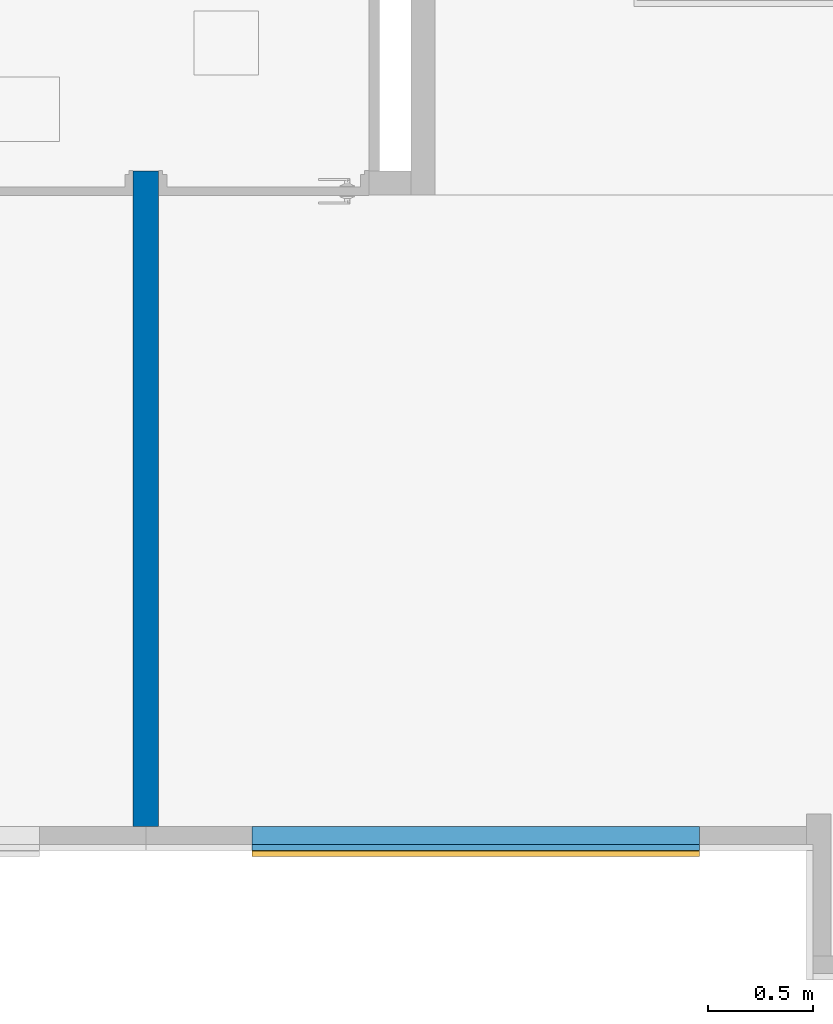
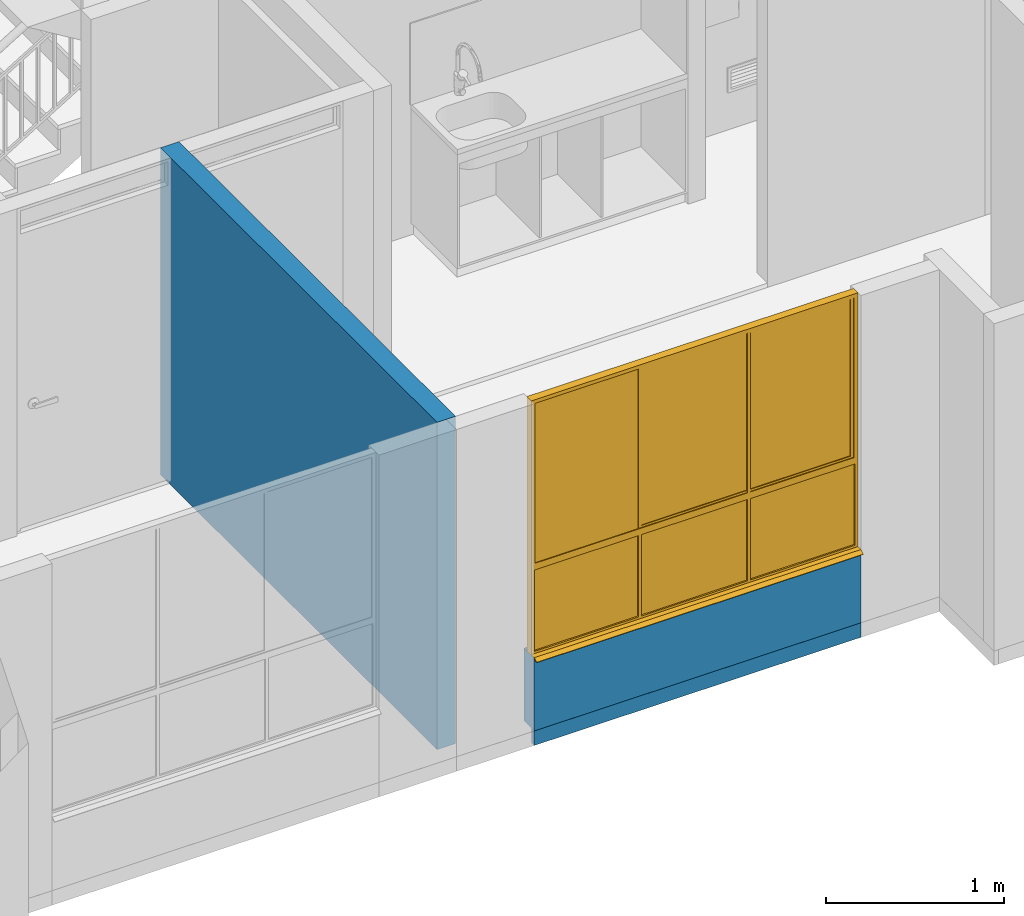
# One storey, part 9 of 48: 3 walls, 1 window, 1 opening.
"""IFC4 building model written with IfcOpenShell, lengths in metres."""

from ifc_helpers import new_model, entity, si_unit, converted_unit, derived_unit, direction, frame, origin, place, context, subcontext, project, spatial, indexed_curve, outline, extrude, polygons, source, transform, mapped, material, constituent, constituent_set, type_object, type_shapes, element, fill, save


model = new_model("IFC4")

# Units and contexts
model_context = context("Model", 3, precision=1e-05, world=origin(), true_north=direction((6.123031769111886e-17, 1.0)))
body_context = subcontext(model_context, "Body", "Model", "MODEL_VIEW")
ifc_project = project(units=[si_unit("LENGTHUNIT", "METRE"), si_unit("AREAUNIT", "SQUARE_METRE"), si_unit("VOLUMEUNIT", "CUBIC_METRE"), converted_unit("PLANEANGLEUNIT", "DEGREE", entity("IfcRatioMeasure", 0.017453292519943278), si_unit("PLANEANGLEUNIT", "RADIAN"), dimensions=[0, 0, 0, 0, 0, 0, 0]), si_unit("MASSUNIT", "GRAM", prefix="KILO"), derived_unit("MASSDENSITYUNIT", [(si_unit("MASSUNIT", "GRAM", prefix="KILO"), 1), (si_unit("LENGTHUNIT", "METRE"), -3)]), derived_unit("IONCONCENTRATIONUNIT", [(si_unit("MASSUNIT", "GRAM", prefix="KILO"), 1), (si_unit("LENGTHUNIT", "METRE"), -3)]), derived_unit("MOMENTOFINERTIAUNIT", [(si_unit("LENGTHUNIT", "METRE"), 4)]), si_unit("TIMEUNIT", "SECOND"), si_unit("FREQUENCYUNIT", "HERTZ"), si_unit("THERMODYNAMICTEMPERATUREUNIT", "DEGREE_CELSIUS"), derived_unit("THERMALTRANSMITTANCEUNIT", [(si_unit("MASSUNIT", "GRAM", prefix="KILO"), 1), (si_unit("THERMODYNAMICTEMPERATUREUNIT", "KELVIN"), -1), (si_unit("TIMEUNIT", "SECOND"), -3)]), derived_unit("THERMALCONDUCTANCEUNIT", [(si_unit("MASSUNIT", "GRAM", prefix="KILO"), 1), (si_unit("THERMODYNAMICTEMPERATUREUNIT", "KELVIN"), -1), (si_unit("TIMEUNIT", "SECOND"), -3), (si_unit("LENGTHUNIT", "METRE"), 1)]), derived_unit("VOLUMETRICFLOWRATEUNIT", [(si_unit("LENGTHUNIT", "METRE"), 3), (si_unit("TIMEUNIT", "SECOND"), -1)]), derived_unit("MASSFLOWRATEUNIT", [(si_unit("MASSUNIT", "GRAM", prefix="KILO"), 1), (si_unit("TIMEUNIT", "SECOND"), -1)]), derived_unit("ROTATIONALFREQUENCYUNIT", [(si_unit("TIMEUNIT", "SECOND"), -1)]), si_unit("ELECTRICCURRENTUNIT", "AMPERE"), si_unit("ELECTRICVOLTAGEUNIT", "VOLT"), si_unit("POWERUNIT", "WATT"), si_unit("FORCEUNIT", "NEWTON", prefix="KILO"), si_unit("ILLUMINANCEUNIT", "LUX"), si_unit("LUMINOUSFLUXUNIT", "LUMEN"), si_unit("LUMINOUSINTENSITYUNIT", "CANDELA"), derived_unit("USERDEFINED", [(si_unit("MASSUNIT", "GRAM", prefix="KILO"), -1), (si_unit("LENGTHUNIT", "METRE"), -2), (si_unit("TIMEUNIT", "SECOND"), 3), (si_unit("LUMINOUSFLUXUNIT", "LUMEN"), 1)]), derived_unit("USERDEFINED", [(si_unit("MASSUNIT", "GRAM", prefix="KILO"), 1), (si_unit("TIMEUNIT", "SECOND"), -3), (si_unit("LENGTHUNIT", "METRE"), 3), (si_unit("ELECTRICCURRENTUNIT", "AMPERE"), -2)]), derived_unit("SOUNDPOWERUNIT", [(si_unit("MASSUNIT", "GRAM", prefix="KILO"), 1), (si_unit("TIMEUNIT", "SECOND"), -3), (si_unit("LENGTHUNIT", "METRE"), 2)]), derived_unit("SOUNDPRESSUREUNIT", [(si_unit("MASSUNIT", "GRAM", prefix="KILO"), 1), (si_unit("LENGTHUNIT", "METRE"), -1), (si_unit("TIMEUNIT", "SECOND"), -2)]), derived_unit("LINEARVELOCITYUNIT", [(si_unit("LENGTHUNIT", "METRE"), 1), (si_unit("TIMEUNIT", "SECOND"), -1)]), si_unit("PRESSUREUNIT", "PASCAL"), derived_unit("USERDEFINED", [(si_unit("MASSUNIT", "GRAM", prefix="KILO"), 1), (si_unit("LENGTHUNIT", "METRE"), -2), (si_unit("TIMEUNIT", "SECOND"), -2)]), derived_unit("LINEARFORCEUNIT", [(si_unit("MASSUNIT", "GRAM", prefix="KILO"), 1), (si_unit("TIMEUNIT", "SECOND"), -2)]), derived_unit("PLANARFORCEUNIT", [(si_unit("MASSUNIT", "GRAM", prefix="KILO"), 1), (si_unit("LENGTHUNIT", "METRE"), -1), (si_unit("TIMEUNIT", "SECOND"), -2)]), derived_unit("SPECIFICHEATCAPACITYUNIT", [(si_unit("THERMODYNAMICTEMPERATUREUNIT", "KELVIN"), -1), (si_unit("LENGTHUNIT", "METRE"), 2), (si_unit("TIMEUNIT", "SECOND"), -2)]), derived_unit("HEATINGVALUEUNIT", [(si_unit("LENGTHUNIT", "METRE"), 2), (si_unit("TIMEUNIT", "SECOND"), -2)]), derived_unit("VAPORPERMEABILITYUNIT", [(si_unit("LENGTHUNIT", "METRE"), -1), (si_unit("TIMEUNIT", "SECOND"), 1)]), derived_unit("DYNAMICVISCOSITYUNIT", [(si_unit("MASSUNIT", "GRAM", prefix="KILO"), 1), (si_unit("TIMEUNIT", "SECOND"), -1), (si_unit("LENGTHUNIT", "METRE"), -1)]), derived_unit("THERMALEXPANSIONCOEFFICIENTUNIT", [(si_unit("THERMODYNAMICTEMPERATUREUNIT", "KELVIN"), -1)]), derived_unit("MODULUSOFELASTICITYUNIT", [(si_unit("MASSUNIT", "GRAM", prefix="KILO"), 1), (si_unit("LENGTHUNIT", "METRE"), -1), (si_unit("TIMEUNIT", "SECOND"), -2)]), derived_unit("ISOTHERMALMOISTURECAPACITYUNIT", [(si_unit("LENGTHUNIT", "METRE"), 3), (si_unit("MASSUNIT", "GRAM", prefix="KILO"), -1)]), derived_unit("MOISTUREDIFFUSIVITYUNIT", [(si_unit("TIMEUNIT", "SECOND"), -1), (si_unit("LENGTHUNIT", "METRE"), 2)])], contexts=[model_context])

# Site, building, storey
site_placement = place(None, origin())
site = spatial("IfcSite", under=ifc_project, at=site_placement, Name="Default", CompositionType="ELEMENT")
building_placement = place(site_placement, origin())
building = spatial("IfcBuilding", under=site, at=building_placement, CompositionType="ELEMENT")
storey_placement = place(building_placement, frame((0.0, 0.0, 4.700000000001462)))
storey = spatial("IfcBuildingStorey", under=building, at=storey_placement, Name="Nivel 3", CompositionType="ELEMENT", Elevation=4.700000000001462)

# Wall
ifc_material_1 = material(Name="Concreto (Aire)", Category="Materials")
wall_type_1 = type_object("IfcWallType", Name="Basic Wall:B2010 - 0.12m - Muro interior en concreto", PredefinedType="STANDARD")
wall_1_placement = place(storey_placement, frame((9.322500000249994, -9.024999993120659, 0.0), z_axis=(0.0, 0.0, 1.0), x_axis=(0.0, -1.0, 0.0)))
element("IfcWall", 1, at=wall_1_placement, inside=storey, type_object=wall_type_1, material=ifc_material_1, Name="Basic Wall:B2010 - 0.12m - Muro interior en concreto", ObjectType="Basic Wall:B2010 - 0.12m - Muro interior en concreto", PredefinedType="NOTDEFINED", context=body_context, shape_type="SweptSolid", body=[
    extrude(outline(indexed_curve([(3.1150000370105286, 0.06000000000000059), (-1.0719303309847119e-16, 0.060000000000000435), (1.0719303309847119e-16, -0.060000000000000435), (3.1150000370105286, -0.06000000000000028), (3.1150000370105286, 0.06000000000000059)], self_intersect=False)), origin(), (0.0, 0.0, 1.0), 2.250000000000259),
])

# Wall, opening, window
ifc_material_2 = material(Name="Ladrillo claro (Aire)", Category="Materials")
wall_type_2 = type_object("IfcWallType", Name="Basic Wall:B2010 - 0.115m - Muro exterior en mampostería - Ladrillo", PredefinedType="STANDARD")
wall_2_placement = place(storey_placement, frame((11.952500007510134, -12.197500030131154, 0.0), z_axis=(0.0, 0.0, 1.0), x_axis=(-1.0, 0.0, 0.0)))
wall_2 = element("IfcWall", 2, at=wall_2_placement, inside=storey, type_object=wall_type_2, material=ifc_material_2, Name="Basic Wall:B2010 - 0.115m - Muro exterior en mampostería - Ladrillo", ObjectType="Basic Wall:B2010 - 0.115m - Muro exterior en mampostería - Ladrillo", PredefinedType="NOTDEFINED", context=body_context, shape_type="Tessellation", body=[
    polygons([(1.6266871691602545e-15, -0.057499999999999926, -5.414335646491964e-16), (2.1249999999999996, -0.057499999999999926, -5.414335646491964e-16), (2.1249999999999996, -0.057499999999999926, 0.5000000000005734), (1.6266871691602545e-15, -0.057499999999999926, 0.5000000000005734), (2.1249999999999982, 0.057499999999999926, -5.414335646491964e-16), (6.252360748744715e-16, 0.057499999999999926, -5.414335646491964e-16), (6.252360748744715e-16, 0.057499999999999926, 0.5000000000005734), (2.1249999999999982, 0.057499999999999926, 0.5000000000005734)], [[[1, 2, 3, 4]], [[5, 6, 7, 8]], [[2, 1, 6, 5]], [[2, 5, 8, 3]], [[6, 1, 4, 7]], [[4, 3, 8, 7]]], closed=True),
])
opening_placement = place(wall_2_placement, frame((0.0, -0.057499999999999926, 0.4999999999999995)))
opening = element("IfcOpeningElement", 3, at=opening_placement, cuts=wall_2, Name="B2020 - 6c Ventana corrediza - Aluminio + Vidrio:B2020 -2.13m x 1.750m - Ventana corrediza 2C - Aluminio + Vidrio:1", PredefinedType="OPENING", context=body_context, shape_type="SweptSolid", body=[
    extrude(outline(indexed_curve([(0.0, 2.125), (0.0, 0.0), (1.7499999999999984, 0.0), (1.7499999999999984, 2.125), (0.0, 2.125)], self_intersect=False)), frame((0.0, 0.0, 0.0), z_axis=(0.0, 1.0, 0.0), x_axis=(0.0, 0.0, 1.0)), (0.0, 0.0, 1.0), 0.115),
])
ifc_material_3 = material(Name="Aluminio", Category="Materials")
ifc_constituent_1 = constituent(ifc_material_3, Name="Aluminio", Category="Materials")
ifc_material_4 = material(Name="Vidrio", Category="Materials")
ifc_constituent_2 = constituent(ifc_material_4, Name="Vidrio", Category="Materials")
ifc_material_5 = material(Name="Alfajía en aluminio", Category="Materials")
ifc_constituent_3 = constituent(ifc_material_5, Name="Alfajía en aluminio", Category="Materials")
ifc_constituent_set_1 = constituent_set(constituents=[ifc_constituent_1, ifc_constituent_2, ifc_constituent_3])
ifc_constituent_4 = constituent(ifc_material_3, Name="Aluminio", Category="Materials")
ifc_constituent_5 = constituent(ifc_material_4, Name="Vidrio", Category="Materials")
ifc_constituent_6 = constituent(ifc_material_5, Name="Alfajía en aluminio", Category="Materials")
ifc_constituent_set_2 = constituent_set(constituents=[ifc_constituent_4, ifc_constituent_5, ifc_constituent_6])
window_type = type_object("IfcWindowType", Name="B2020 - 6c Ventana corrediza - Aluminio + Vidrio:B2020 -2.13m x 1.750m - Ventana corrediza 2C - Aluminio + Vidrio", PartitioningType="NOTDEFINED", PredefinedType="WINDOW", material=ifc_constituent_set_2)
shared_shape = source(origin(), body_context, "Body", "Tessellation", [
    polygons([(1.3916666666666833, 0.03749999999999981, 1.7249999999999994), (1.3916666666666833, 0.03749999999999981, 0.6249999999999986), (1.391666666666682, 0.032499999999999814, 0.6249999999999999), (1.3916666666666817, 0.032499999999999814, 1.7249999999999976), (-0.6833333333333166, 0.03249999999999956, 0.6249999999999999), (-0.6833333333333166, 0.032499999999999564, 1.7249999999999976), (-0.7083333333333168, 0.03249999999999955, 0.5999999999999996), (1.4166666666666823, 0.032499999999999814, 0.5999999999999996), (1.4166666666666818, 0.032499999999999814, 1.749999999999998), (-0.7083333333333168, 0.03249999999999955, 1.749999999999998), (-0.6833333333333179, 0.03749999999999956, 0.6249999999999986), (-0.6833333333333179, 0.03749999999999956, 1.7249999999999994), (-0.6883333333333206, 0.03749999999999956, 0.6199999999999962), (-0.6883333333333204, 0.03749999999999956, 1.7300000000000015), (1.3966666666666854, 0.03749999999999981, 1.7300000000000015), (1.3966666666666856, 0.03749999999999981, 0.6199999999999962), (1.3966666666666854, 0.05499999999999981, 1.7300000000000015), (1.3966666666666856, 0.05499999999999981, 0.6199999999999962), (-0.6883333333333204, 0.05499999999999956, 0.6199999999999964), (-0.6883333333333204, 0.05499999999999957, 1.7300000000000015), (-0.6833333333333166, 0.05499999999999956, 0.6249999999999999), (-0.6833333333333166, 0.05499999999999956, 1.7249999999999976), (1.3916666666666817, 0.05499999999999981, 1.7249999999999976), (1.391666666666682, 0.05499999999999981, 0.6249999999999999), (1.3916666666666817, 0.05999999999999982, 1.7249999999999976), (1.391666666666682, 0.05999999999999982, 0.6249999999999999), (-0.6833333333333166, 0.059999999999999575, 0.6249999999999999), (-0.6833333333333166, 0.059999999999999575, 1.7249999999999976), (-0.7033333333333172, 0.05999999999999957, 0.6049999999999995), (-0.7033333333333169, 0.05999999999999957, 1.744999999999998), (1.411666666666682, 0.05999999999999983, 1.744999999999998), (1.4116666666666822, 0.05999999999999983, 0.6049999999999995), (1.411666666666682, 0.07749999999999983, 1.744999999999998), (1.4116666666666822, 0.07749999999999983, 0.6049999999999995), (-0.7033333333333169, 0.07749999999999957, 0.6049999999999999), (-0.7033333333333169, 0.07749999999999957, 1.744999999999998), (-0.6833333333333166, 0.07749999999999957, 0.6249999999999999), (-0.6833333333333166, 0.07749999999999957, 1.7249999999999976), (1.3916666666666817, 0.07749999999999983, 1.7249999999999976), (1.391666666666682, 0.07749999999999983, 0.6249999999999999), (1.3916666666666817, 0.08249999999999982, 1.7249999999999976), (1.391666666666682, 0.08249999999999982, 0.6249999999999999), (-0.6833333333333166, 0.08249999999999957, 0.6249999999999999), (-0.6833333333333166, 0.08249999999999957, 1.7249999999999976), (-0.7083333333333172, 0.08249999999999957, 0.5999999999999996), (-0.7083333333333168, 0.08249999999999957, 1.749999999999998), (1.4166666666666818, 0.08249999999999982, 1.749999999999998), (1.4166666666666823, 0.08249999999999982, 0.5999999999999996)], [[[1, 2, 3, 4]], [[7, 8, 9, 10], [5, 6, 4, 3]], [[2, 11, 5, 3]], [[13, 14, 15, 16], [11, 2, 1, 12]], [[17, 18, 16, 15]], [[18, 19, 13, 16]], [[19, 18, 17, 20], [21, 22, 23, 24]], [[25, 26, 24, 23]], [[26, 27, 21, 24]], [[29, 30, 31, 32], [27, 26, 25, 28]], [[33, 34, 32, 31]], [[34, 35, 29, 32]], [[35, 34, 33, 36], [37, 38, 39, 40]], [[41, 42, 40, 39]], [[42, 43, 37, 40]], [[45, 46, 47, 48], [43, 42, 41, 44]], [[9, 8, 48, 47]], [[8, 7, 45, 48]], [[11, 12, 6, 5]], [[19, 20, 14, 13]], [[27, 28, 22, 21]], [[35, 36, 30, 29]], [[43, 44, 38, 37]], [[7, 10, 46, 45]], [[12, 1, 4, 6]], [[20, 17, 15, 14]], [[28, 25, 23, 22]], [[36, 33, 31, 30]], [[44, 41, 39, 38]], [[10, 9, 47, 46]]], closed=True),
    polygons([(-0.009999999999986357, 0.08249999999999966, 0.6249999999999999), (0.010000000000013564, 0.08249999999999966, 0.6249999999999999), (0.010000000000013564, 0.05999999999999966, 0.6249999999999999), (-0.009999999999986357, 0.05999999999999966, 0.6249999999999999), (-0.009999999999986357, 0.08249999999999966, 1.7249999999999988), (-0.009999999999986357, 0.05999999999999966, 1.7249999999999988), (0.010000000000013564, 0.05999999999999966, 1.7249999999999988), (0.010000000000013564, 0.08249999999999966, 1.7249999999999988)], [[[1, 2, 3, 4]], [[5, 1, 4, 6]], [[6, 4, 3, 7]], [[7, 3, 2, 8]], [[8, 2, 1, 5]], [[5, 6, 7, 8]]], closed=True),
    polygons([(0.7108333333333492, 0.06674999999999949, 1.7299999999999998), (-0.6833333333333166, 0.06674999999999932, 1.7299999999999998), (-0.6833333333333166, 0.06674999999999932, 0.6174999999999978), (0.7108333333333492, 0.06674999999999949, 0.6174999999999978), (0.7108333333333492, 0.0707499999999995, 0.6174999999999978), (0.7108333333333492, 0.0707499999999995, 1.7299999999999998), (-0.6833333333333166, 0.07074999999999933, 0.6174999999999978), (-0.6833333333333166, 0.07074999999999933, 1.7299999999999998)], [[[1, 2, 3, 4]], [[4, 5, 6, 1]], [[3, 7, 5, 4]], [[2, 8, 7, 3]], [[6, 5, 7, 8]], [[1, 6, 8, 2]]], closed=True),
    polygons([(0.7108333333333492, 0.07074999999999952, 0.6225000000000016), (-0.6783333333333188, 0.07074999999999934, 0.6225000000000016), (-0.6783333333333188, 0.06674999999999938, 0.6225000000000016), (0.7108333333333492, 0.06674999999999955, 0.6225000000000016), (-0.6783333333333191, 0.07074999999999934, 1.730000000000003), (-0.6783333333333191, 0.06674999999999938, 1.730000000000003), (0.7108333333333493, 0.06674999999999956, 1.730000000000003), (-0.6633333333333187, 0.06674999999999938, 1.7150000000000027), (-0.6633333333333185, 0.06674999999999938, 0.637500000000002), (0.695833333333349, 0.06674999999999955, 0.637500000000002), (0.695833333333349, 0.06674999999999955, 1.7150000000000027), (0.7108333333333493, 0.07074999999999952, 1.730000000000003), (-0.6633333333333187, 0.07074999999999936, 0.637500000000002), (-0.6633333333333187, 0.07074999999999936, 1.7150000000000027), (0.695833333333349, 0.07074999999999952, 1.7150000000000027), (0.695833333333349, 0.07074999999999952, 0.6375000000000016), (0.695833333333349, 0.07549999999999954, 0.637500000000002), (-0.6633333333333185, 0.07549999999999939, 0.6375000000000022), (-0.6633333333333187, 0.07549999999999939, 1.7150000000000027), (0.695833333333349, 0.07549999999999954, 1.7150000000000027), (-0.6833333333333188, 0.07549999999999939, 0.6175000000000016), (-0.683333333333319, 0.07549999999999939, 1.735000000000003), (0.7158333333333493, 0.07549999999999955, 1.735000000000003), (0.7158333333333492, 0.07549999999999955, 0.6175000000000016), (0.7158333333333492, 0.06199999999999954, 0.6175000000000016), (-0.6833333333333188, 0.061999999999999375, 0.6175000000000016), (-0.683333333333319, 0.061999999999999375, 1.735000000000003), (0.7158333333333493, 0.06199999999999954, 1.735000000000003), (-0.6633333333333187, 0.06199999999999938, 0.637500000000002), (-0.6633333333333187, 0.06199999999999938, 1.7150000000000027), (0.695833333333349, 0.06199999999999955, 1.7150000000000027), (0.695833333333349, 0.06199999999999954, 0.6375000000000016)], [[[1, 2, 3, 4]], [[2, 5, 6, 3]], [[3, 6, 7, 4], [8, 9, 10, 11]], [[5, 2, 1, 12], [13, 14, 15, 16]], [[17, 18, 13, 16]], [[18, 19, 14, 13]], [[21, 22, 23, 24], [19, 18, 17, 20]], [[25, 26, 21, 24]], [[26, 27, 22, 21]], [[27, 26, 25, 28], [29, 30, 31, 32]], [[10, 9, 29, 32]], [[9, 8, 30, 29]], [[12, 1, 4, 7]], [[20, 17, 16, 15]], [[28, 25, 24, 23]], [[11, 10, 32, 31]], [[5, 12, 7, 6]], [[19, 20, 15, 14]], [[27, 28, 23, 22]], [[8, 11, 31, 30]]], closed=True),
    polygons([(1.3916666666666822, 0.04424999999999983, 1.7299999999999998), (0.7033333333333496, 0.04424999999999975, 1.7299999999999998), (0.7033333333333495, 0.04424999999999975, 0.6174999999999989), (1.391666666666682, 0.04424999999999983, 0.6174999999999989), (1.391666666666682, 0.04824999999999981, 0.6174999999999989), (1.3916666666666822, 0.04824999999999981, 1.7299999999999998), (0.7033333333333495, 0.048249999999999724, 0.6174999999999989), (0.7033333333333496, 0.048249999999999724, 1.7299999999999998)], [[[1, 2, 3, 4]], [[4, 5, 6, 1]], [[3, 7, 5, 4]], [[2, 8, 7, 3]], [[6, 5, 7, 8]], [[1, 6, 8, 2]]], closed=True),
    polygons([(1.391666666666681, 0.04824999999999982, 0.6224999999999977), (0.7033333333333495, 0.04824999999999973, 0.6224999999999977), (0.7033333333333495, 0.044249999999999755, 0.6224999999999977), (1.391666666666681, 0.04424999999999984, 0.6224999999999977), (0.7033333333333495, 0.04824999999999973, 1.729999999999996), (0.7033333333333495, 0.044249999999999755, 1.729999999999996), (1.391666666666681, 0.04424999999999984, 1.729999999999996), (0.7183333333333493, 0.044249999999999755, 1.714999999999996), (0.7183333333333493, 0.044249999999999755, 0.6374999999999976), (1.3766666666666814, 0.04424999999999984, 0.6374999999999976), (1.3766666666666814, 0.04424999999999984, 1.714999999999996), (1.391666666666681, 0.04824999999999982, 1.729999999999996), (0.7183333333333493, 0.04824999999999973, 0.6374999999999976), (0.7183333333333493, 0.04824999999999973, 1.714999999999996), (1.3766666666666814, 0.04824999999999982, 1.714999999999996), (1.3766666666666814, 0.04824999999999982, 0.6374999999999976), (1.3766666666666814, 0.052999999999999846, 0.6374999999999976), (0.7183333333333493, 0.05299999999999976, 0.6374999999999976), (0.7183333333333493, 0.05299999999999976, 1.714999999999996), (1.3766666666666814, 0.052999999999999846, 1.714999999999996), (0.6983333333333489, 0.052999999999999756, 0.6174999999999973), (0.6983333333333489, 0.05299999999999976, 1.7349999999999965), (1.3966666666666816, 0.052999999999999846, 1.7349999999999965), (1.3966666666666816, 0.052999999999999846, 0.6174999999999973), (1.3966666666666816, 0.03949999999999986, 0.6174999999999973), (0.6983333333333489, 0.03949999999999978, 0.6174999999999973), (0.6983333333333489, 0.03949999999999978, 1.7349999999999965), (1.3966666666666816, 0.03949999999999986, 1.7349999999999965), (0.7183333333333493, 0.039499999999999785, 0.6374999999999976), (0.7183333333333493, 0.03949999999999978, 1.714999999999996), (1.3766666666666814, 0.039499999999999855, 1.714999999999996), (1.3766666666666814, 0.039499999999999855, 0.6374999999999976)], [[[1, 2, 3, 4]], [[2, 5, 6, 3]], [[3, 6, 7, 4], [8, 9, 10, 11]], [[5, 2, 1, 12], [13, 14, 15, 16]], [[17, 18, 13, 16]], [[18, 19, 14, 13]], [[21, 22, 23, 24], [19, 18, 17, 20]], [[25, 26, 21, 24]], [[26, 27, 22, 21]], [[27, 26, 25, 28], [29, 30, 31, 32]], [[10, 9, 29, 32]], [[9, 8, 30, 29]], [[12, 1, 4, 7]], [[20, 17, 16, 15]], [[28, 25, 24, 23]], [[11, 10, 32, 31]], [[5, 12, 7, 6]], [[19, 20, 15, 14]], [[27, 28, 23, 22]], [[8, 11, 31, 30]]], closed=True),
    polygons([(-0.6883333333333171, 0.04424999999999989, 1.7299999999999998), (-0.6883333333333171, 0.04424999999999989, 0.6174999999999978), (1.3916666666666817, 0.04424999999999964, 0.6174999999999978), (1.3916666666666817, 0.04424999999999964, 1.7299999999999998), (1.3916666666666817, 0.04824999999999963, 0.6174999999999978), (1.3916666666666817, 0.04824999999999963, 1.7299999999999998), (-0.6883333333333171, 0.04824999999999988, 0.6174999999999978), (-0.6883333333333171, 0.04824999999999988, 1.7299999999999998)], [[[1, 2, 3, 4]], [[3, 5, 6, 4]], [[2, 7, 5, 3]], [[1, 8, 7, 2]], [[8, 6, 5, 7]], [[4, 6, 8, 1]]], closed=True),
    polygons([(1.3966666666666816, 0.06674999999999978, 1.7299999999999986), (-0.6883333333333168, 0.06674999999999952, 1.7299999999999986), (-0.6883333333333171, 0.06674999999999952, 0.6174999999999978), (1.3966666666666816, 0.06674999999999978, 0.6174999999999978), (1.3966666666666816, 0.07074999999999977, 0.6174999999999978), (1.3966666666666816, 0.07074999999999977, 1.7299999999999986), (-0.6883333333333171, 0.07074999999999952, 0.6174999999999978), (-0.6883333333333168, 0.07074999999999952, 1.7299999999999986)], [[[1, 2, 3, 4]], [[4, 5, 6, 1]], [[3, 7, 5, 4]], [[2, 8, 7, 3]], [[6, 5, 7, 8]], [[1, 6, 8, 2]]], closed=True),
    polygons([(1.3966666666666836, 0.06813901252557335, 0.5800000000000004), (-0.6883333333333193, 0.06813901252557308, 0.5800000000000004), (-0.6883333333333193, 0.06813901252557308, 0.019999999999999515), (1.3966666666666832, 0.06813901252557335, 0.019999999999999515), (1.3966666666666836, 0.07213901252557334, 0.5800000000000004), (1.3966666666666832, 0.07213901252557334, 0.019999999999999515), (-0.6883333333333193, 0.07213901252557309, 0.019999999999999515), (-0.6883333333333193, 0.07213901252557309, 0.5800000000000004)], [[[1, 2, 3, 4]], [[5, 6, 7, 8]], [[4, 6, 5, 1]], [[3, 7, 6, 4]], [[2, 8, 7, 3]], [[1, 5, 8, 2]]], closed=True),
    polygons([(-0.009999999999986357, 0.08250000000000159, 0.5799999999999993), (-0.009999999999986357, 0.03250000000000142, 0.5799999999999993), (0.010000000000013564, 0.03250000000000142, 0.5799999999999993), (0.010000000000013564, 0.08250000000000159, 0.5799999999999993), (-0.009999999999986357, 0.08250000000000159, 0.019999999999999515), (0.010000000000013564, 0.08250000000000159, 0.019999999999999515), (0.010000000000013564, 0.03250000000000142, 0.019999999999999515), (-0.009999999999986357, 0.03250000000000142, 0.019999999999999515)], [[[1, 2, 3, 4]], [[5, 6, 7, 8]], [[4, 6, 5, 1]], [[3, 7, 6, 4]], [[2, 8, 7, 3]], [[1, 5, 8, 2]]], closed=True),
    polygons([(1.4166666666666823, 0.08249999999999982, 2.707167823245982e-16), (-0.7083333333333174, 0.08249999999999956, 4.060751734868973e-16), (-0.7083333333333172, 0.08249999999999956, 0.5999999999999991), (1.4166666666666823, 0.08249999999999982, 0.5999999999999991), (0.6983333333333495, 0.08250000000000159, 0.5799999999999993), (-0.6883333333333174, 0.0825000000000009, 0.5799999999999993), (-0.6883333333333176, 0.0825000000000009, 0.020000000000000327), (0.6983333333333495, 0.08250000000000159, 0.01999999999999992), (0.7183333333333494, 0.08250000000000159, 0.01999999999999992), (1.3966666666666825, 0.08250000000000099, 0.020000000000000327), (1.3966666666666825, 0.08250000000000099, 0.5799999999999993), (0.7183333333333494, 0.08250000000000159, 0.5799999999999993), (0.7183333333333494, 0.03250000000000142, 0.5799999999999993), (0.7183333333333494, 0.03250000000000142, 0.01999999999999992), (1.4166666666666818, 0.03250000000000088, 0.5999999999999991), (-0.7083333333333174, 0.0325000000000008, 0.5999999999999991), (-0.7083333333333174, 0.0325000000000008, 4.060751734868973e-16), (1.4166666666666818, 0.03250000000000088, 4.060751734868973e-16), (1.3966666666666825, 0.032499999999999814, 0.5799999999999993), (1.3966666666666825, 0.032499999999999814, 0.020000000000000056), (0.6983333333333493, 0.03250000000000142, 0.01999999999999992), (-0.6883333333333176, 0.03249999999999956, 0.020000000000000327), (-0.6883333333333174, 0.03249999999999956, 0.5799999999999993), (0.6983333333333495, 0.03250000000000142, 0.5799999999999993)], [[[1, 2, 3, 4], [5, 6, 7, 8], [9, 10, 11, 12]], [[12, 13, 14, 9]], [[15, 16, 17, 18], [13, 19, 20, 14], [21, 22, 23, 24]], [[8, 21, 24, 5]], [[11, 10, 20, 19]], [[15, 18, 1, 4]], [[10, 9, 14, 20]], [[18, 17, 2, 1]], [[7, 6, 23, 22]], [[17, 16, 3, 2]], [[6, 5, 24, 23]], [[4, 3, 16, 15]], [[19, 13, 12, 11]], [[22, 21, 8, 7]]], closed=True),
    polygons([(0.6983333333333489, 0.07213901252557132, 0.5849999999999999), (-0.6883333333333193, 0.07213901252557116, 0.5849999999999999), (-0.6883333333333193, 0.06813901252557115, 0.5849999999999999), (0.6983333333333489, 0.06813901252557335, 0.5849999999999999), (0.6983333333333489, 0.07213901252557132, 0.019999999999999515), (0.6983333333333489, 0.06813901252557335, 0.019999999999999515), (-0.6883333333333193, 0.06813901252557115, 0.019999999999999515), (-0.6883333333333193, 0.07213901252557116, 0.019999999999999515)], [[[1, 2, 3, 4]], [[5, 6, 7, 8]], [[1, 5, 8, 2]], [[2, 8, 7, 3]], [[3, 7, 6, 4]], [[4, 6, 5, 1]]], closed=True),
    polygons([(1.4166666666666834, 0.11499999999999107, -4.060751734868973e-16), (1.416666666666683, 0.1409807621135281, -0.015000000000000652), (1.416666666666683, 0.14348076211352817, -0.010669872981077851), (1.4166666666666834, 0.11633974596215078, 0.0049999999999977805), (1.4166666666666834, 0.08249999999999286, 0.0049999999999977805), (1.4166666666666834, 0.08249999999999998, -4.060751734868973e-16), (-0.7083333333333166, 0.11499999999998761, -4.060751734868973e-16), (-0.7083333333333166, 0.08249999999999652, -4.060751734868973e-16), (-0.7083333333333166, 0.0824999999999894, 0.0049999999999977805), (-0.7083333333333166, 0.11633974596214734, 0.0049999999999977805), (-0.7083333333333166, 0.1434807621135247, -0.010669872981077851), (-0.7083333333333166, 0.14098076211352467, -0.015000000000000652)], [[[1, 2, 3, 4, 5, 6]], [[7, 8, 9, 10, 11, 12]], [[6, 8, 7, 1]], [[5, 9, 8, 6]], [[4, 10, 9, 5]], [[3, 11, 10, 4]], [[2, 12, 11, 3]], [[1, 7, 12, 2]]], closed=True),
    polygons([(0.7183333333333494, 0.07213901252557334, 0.5849999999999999), (0.7183333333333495, 0.06813901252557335, 0.5849999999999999), (1.3966666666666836, 0.06813901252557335, 0.5849999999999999), (1.3966666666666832, 0.07213901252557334, 0.5849999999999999), (0.7183333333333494, 0.07213901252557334, 0.019999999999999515), (1.3966666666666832, 0.07213901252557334, 0.019999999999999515), (1.3966666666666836, 0.06813901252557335, 0.019999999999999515), (0.7183333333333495, 0.06813901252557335, 0.019999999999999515)], [[[1, 2, 3, 4]], [[5, 6, 7, 8]], [[4, 6, 5, 1]], [[3, 7, 6, 4]], [[2, 8, 7, 3]], [[1, 5, 8, 2]]], closed=True),
])
type_shapes(window_type, [shared_shape])
window_placement = place(opening_placement, frame((0.7083333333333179, 0.0, 0.0)))
window = element("IfcWindow", 4, at=window_placement, inside=storey, type_object=window_type, material=ifc_constituent_set_1, Name="B2020 - 6c Ventana corrediza - Aluminio + Vidrio:B2020 -2.13m x 1.750m - Ventana corrediza 2C - Aluminio + Vidrio", ObjectType="B2020 - 6c Ventana corrediza - Aluminio + Vidrio:B2020 -2.13m x 1.750m - Ventana corrediza 2C - Aluminio + Vidrio", OverallHeight=1.7499999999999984, OverallWidth=2.125, PartitioningType="NOTDEFINED", PredefinedType="WINDOW", context=body_context, shape_type="MappedRepresentation", body=[
    mapped(shared_shape, transform((0.0, 0.0, 0.0), scale=1.0)),
])
fill(opening, window)

# Wall
ifc_material_6 = material(Name="LADRILLO CLARO", Category="Materials")
wall_type_3 = type_object("IfcWallType", Name="Basic Wall:B2010 - 0.03m - ME enchape  no estructural - Ladrillo", PredefinedType="STANDARD")
wall_3_placement = place(storey_placement, frame((9.827500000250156, -12.240000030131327, -0.1000000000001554)))
element("IfcWall", 5, at=wall_3_placement, inside=storey, type_object=wall_type_3, material=ifc_material_6, Name="Basic Wall:B2010 - 0.03m - ME enchape  no estructural - Ladrillo", ObjectType="Basic Wall:B2010 - 0.03m - ME enchape  no estructural - Ladrillo", PredefinedType="NOTDEFINED", context=body_context, shape_type="SweptSolid", body=[
    extrude(outline(indexed_curve([(2.125000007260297, 0.015000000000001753), (-5.1729321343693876e-17, 0.015000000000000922), (5.1729321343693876e-17, -0.015000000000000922), (2.125000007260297, -0.01500000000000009), (2.125000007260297, 0.015000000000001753)], self_intersect=False)), origin(), (0.0, 0.0, 1.0), 0.1),
])

save(model, "model.ifc")
